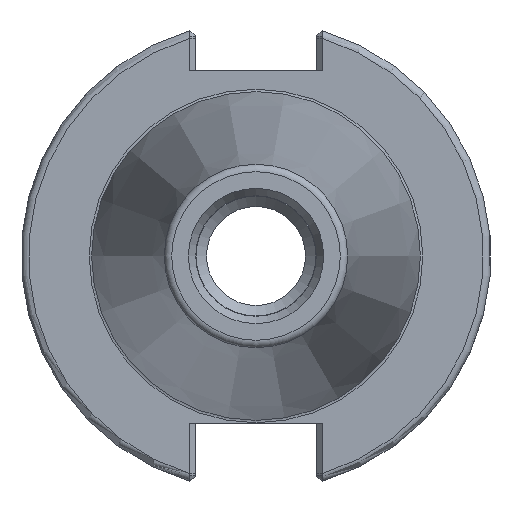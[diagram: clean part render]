
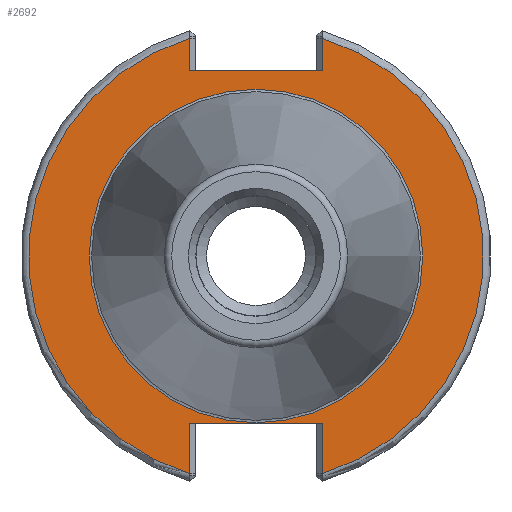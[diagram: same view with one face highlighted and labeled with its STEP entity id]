
A CAD part, left-side view. The second image highlights one B-rep face of the part: STEP entity #2692.
In plain terms, the highlighted planar face has unit normal (-1, 0, 0).
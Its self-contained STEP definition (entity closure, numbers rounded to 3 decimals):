
#157=FACE_BOUND('',#468,.T.);
#175=PLANE('',#2958);
#309=FACE_OUTER_BOUND('',#467,.T.);
#467=EDGE_LOOP('',(#1980,#1981,#1982,#1983,#1984,#1985,#1986,#1987));
#468=EDGE_LOOP('',(#1988,#1989));
#613=LINE('',#4079,#771);
#626=LINE('',#4208,#784);
#628=LINE('',#4287,#786);
#629=LINE('',#4289,#787);
#630=LINE('',#4292,#788);
#631=LINE('',#4293,#789);
#771=VECTOR('',#3340,10.);
#784=VECTOR('',#3373,10.);
#786=VECTOR('',#3395,10.);
#787=VECTOR('',#3396,10.);
#788=VECTOR('',#3399,10.);
#789=VECTOR('',#3400,10.);
#969=CIRCLE('',#2957,30.75);
#970=CIRCLE('',#2959,30.75);
#971=CIRCLE('',#2960,22.55);
#972=CIRCLE('',#2961,22.55);
#1131=VERTEX_POINT('',#4076);
#1132=VERTEX_POINT('',#4078);
#1146=VERTEX_POINT('',#4201);
#1149=VERTEX_POINT('',#4206);
#1156=VERTEX_POINT('',#4265);
#1158=VERTEX_POINT('',#4286);
#1159=VERTEX_POINT('',#4288);
#1160=VERTEX_POINT('',#4290);
#1161=VERTEX_POINT('',#4294);
#1162=VERTEX_POINT('',#4295);
#1438=EDGE_CURVE('',#1132,#1131,#613,.T.);
#1459=EDGE_CURVE('',#1149,#1146,#626,.T.);
#1471=EDGE_CURVE('',#1146,#1156,#969,.T.);
#1474=EDGE_CURVE('',#1149,#1158,#628,.T.);
#1475=EDGE_CURVE('',#1159,#1158,#629,.T.);
#1476=EDGE_CURVE('',#1160,#1159,#970,.T.);
#1477=EDGE_CURVE('',#1132,#1160,#630,.T.);
#1478=EDGE_CURVE('',#1156,#1131,#631,.T.);
#1479=EDGE_CURVE('',#1161,#1162,#971,.T.);
#1480=EDGE_CURVE('',#1162,#1161,#972,.T.);
#1980=ORIENTED_EDGE('',*,*,#1459,.F.);
#1981=ORIENTED_EDGE('',*,*,#1474,.T.);
#1982=ORIENTED_EDGE('',*,*,#1475,.F.);
#1983=ORIENTED_EDGE('',*,*,#1476,.F.);
#1984=ORIENTED_EDGE('',*,*,#1477,.F.);
#1985=ORIENTED_EDGE('',*,*,#1438,.T.);
#1986=ORIENTED_EDGE('',*,*,#1478,.F.);
#1987=ORIENTED_EDGE('',*,*,#1471,.F.);
#1988=ORIENTED_EDGE('',*,*,#1479,.F.);
#1989=ORIENTED_EDGE('',*,*,#1480,.F.);
#2692=ADVANCED_FACE('',(#309,#157),#175,.T.);
#2957=AXIS2_PLACEMENT_3D('',#4266,#3391,#3392);
#2958=AXIS2_PLACEMENT_3D('',#4285,#3393,#3394);
#2959=AXIS2_PLACEMENT_3D('',#4291,#3397,#3398);
#2960=AXIS2_PLACEMENT_3D('',#4296,#3401,#3402);
#2961=AXIS2_PLACEMENT_3D('',#4297,#3403,#3404);
#3340=DIRECTION('',(0.,1.,0.));
#3373=DIRECTION('',(0.,0.,-1.));
#3391=DIRECTION('center_axis',(1.,0.,0.));
#3392=DIRECTION('ref_axis',(0.,-1.,0.));
#3393=DIRECTION('center_axis',(-1.,0.,0.));
#3394=DIRECTION('ref_axis',(0.,0.,1.));
#3395=DIRECTION('',(0.,-1.,0.));
#3396=DIRECTION('',(0.,0.,1.));
#3397=DIRECTION('center_axis',(1.,0.,0.));
#3398=DIRECTION('ref_axis',(0.,-1.,0.));
#3399=DIRECTION('',(0.,0.,1.));
#3400=DIRECTION('',(0.,0.,-1.));
#3401=DIRECTION('center_axis',(-1.,0.,0.));
#3402=DIRECTION('ref_axis',(0.,-1.,0.));
#3403=DIRECTION('center_axis',(-1.,0.,0.));
#3404=DIRECTION('ref_axis',(0.,-1.,0.));
#4076=CARTESIAN_POINT('',(3.175,8.992,25.019));
#4078=CARTESIAN_POINT('',(3.175,-8.992,25.019));
#4079=CARTESIAN_POINT('',(3.175,19.971,25.019));
#4201=CARTESIAN_POINT('',(3.175,8.992,-29.406));
#4206=CARTESIAN_POINT('',(3.175,8.992,-22.606));
#4208=CARTESIAN_POINT('',(3.175,8.992,-11.303));
#4265=CARTESIAN_POINT('',(3.175,8.992,29.406));
#4266=CARTESIAN_POINT('Origin',(3.175,0.,0.));
#4285=CARTESIAN_POINT('Origin',(3.175,31.75,0.));
#4286=CARTESIAN_POINT('',(3.175,-8.992,-22.606));
#4287=CARTESIAN_POINT('',(3.175,11.779,-22.606));
#4288=CARTESIAN_POINT('',(3.175,-8.992,-29.406));
#4289=CARTESIAN_POINT('',(3.175,-8.992,-17.5));
#4290=CARTESIAN_POINT('',(3.175,-8.992,29.406));
#4291=CARTESIAN_POINT('Origin',(3.175,0.,0.));
#4292=CARTESIAN_POINT('',(3.175,-8.992,12.51));
#4293=CARTESIAN_POINT('',(3.175,8.992,17.5));
#4294=CARTESIAN_POINT('',(3.175,22.55,0.));
#4295=CARTESIAN_POINT('',(3.175,0.,22.55));
#4296=CARTESIAN_POINT('Origin',(3.175,0.,0.));
#4297=CARTESIAN_POINT('Origin',(3.175,0.,0.));
